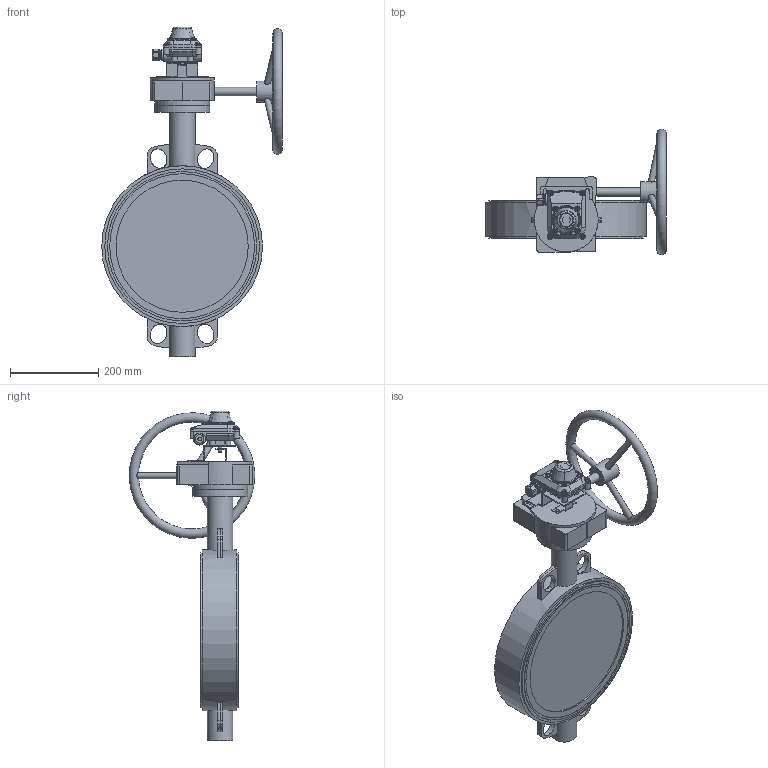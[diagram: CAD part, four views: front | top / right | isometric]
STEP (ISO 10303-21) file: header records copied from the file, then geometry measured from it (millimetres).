
FILE_DESCRIPTION(('STEP AP203'), '1');
FILE_NAME('3D_200-300-16-Ï.02', '', ('UNSPECIFIED'), ('UNSPECIFIED'), 'C3D Converter', 'C3D Toolkit', '');
FILE_SCHEMA(('CONFIG_CONTROL_DESIGN'));
Length unit declared in the file: millimetre
Bounding box: 409.78 x 284.81 x 748 mm (x, y, z)
Volume: 11237004.2 mm3; surface area: 660330.4 mm2
Topology: 4 solids, 6 shells, 670 faces, 1873 edges, 1263 vertices
Faces by surface type: plane 370, cylinder 203, torus 46, cone 45, bspline 6
Full cylindrical faces by diameter (mm): 4.917 x4, 6 x8, 8 x3, 10 x8, 12 x4, 13.5 x2, 14 x3, 16 x1, 17.294 x1, 18 x1, 19.049 x1, 22 x1, 27 x2, 32 x1, 47.622 x1, 58.007 x2, 61.5 x1, 125 x2, 300 x2, 329 x2, 339 x2, 351 x2, 365 x1
Entity records: 37549 total; most frequent: CARTESIAN_POINT 14891, DIRECTION 3600, ORIENTED_EDGE 3576, EDGE_CURVE 1788, AXIS2_PLACEMENT_3D 1386, VERTEX_POINT 1262, EDGE_LOOP 836, LINE 828
